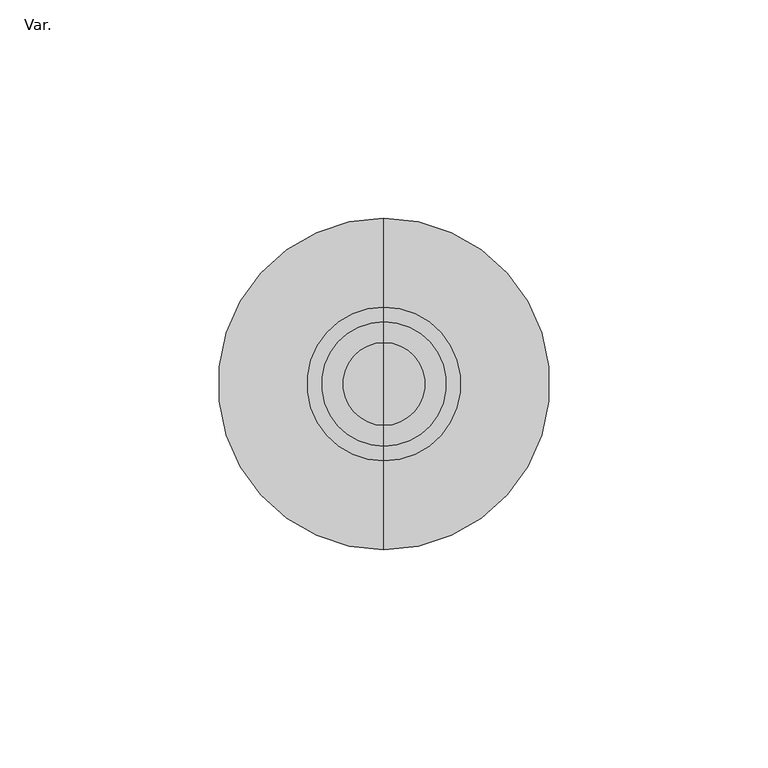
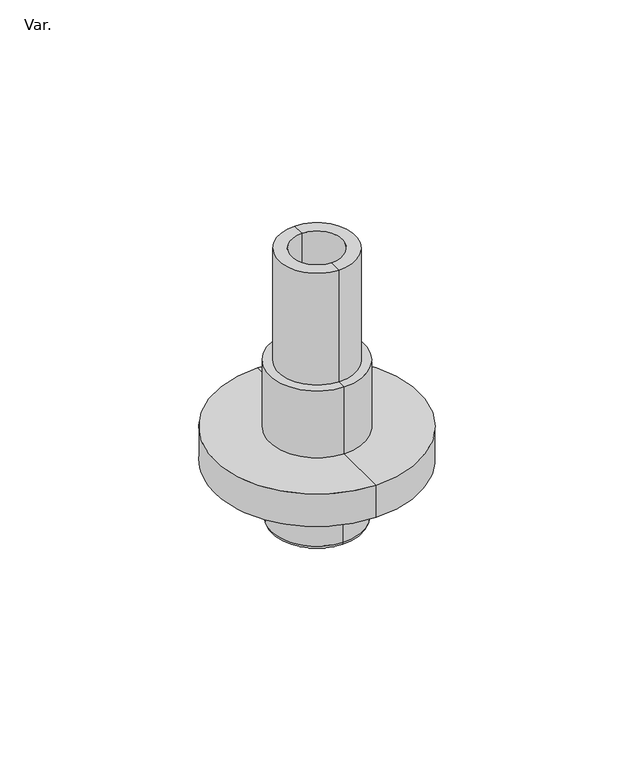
"""IFC4 building model written with IfcOpenShell, lengths in millimetres: pipe fitting geometry, PlastigamaWavin_Unionesdetubería_LineaDoradaZNoUsarAdaptadorTanque(Nested) : Var.."""

from ifc_helpers import new_model, si_unit, point, frame, origin, place, context, project, spatial, polyline, circle_curve, ellipse_curve, trimmed, source, transform, mapped, element, save
from ifc_brep_helpers import plane_surface, cylinder_surface, revolved_surface, advanced_brep


def var_17c6ac72(model_context):
    return source(origin(), model_context, "Body", "AdvancedBrep", [
        advanced_brep(
        [(0.0017664, -14.25, 32.275), (0.0017664, 14.25, 32.275), (0.0011294, 14.25, 76.075), (0.0011294, -14.25, 76.075), (0.0017664, -17.6, 32.275), (0.0017664, 17.6, 32.275), (0.0021475, -17.6, 6.075), (0.0021475, 17.6, 6.075), (0.0021475, -38.0, 6.075), (0.0021475, 38.0, 6.075), (0.0023323, -38.0, -6.625), (0.0023323, 38.0, -6.625), (0.0023323, -17.0, -6.625), (0.0023323, 17.0, -6.625), (0.0026583, -17.0, -29.0416667), (0.0026583, 17.0, -29.0416667), (0.0026813, -1.5833333, -30.625), (0.0026813, 1.5833333, -30.625), (0.0026813, 15.4166667, -30.625), (0.0026813, -15.4166667, -30.625), (0.0017664, -9.5, 32.275), (0.0017664, 9.5, 32.275), (0.0017664, 0.0, 32.275), (0.0011294, -9.5, 76.075), (0.0011294, 9.5, 76.075), (0.0026583, 0.0, -29.0416667)],
        [
            (0, 1, circle_curve(frame((0.0017664, 0.0, 32.275), z_axis=(-1.454503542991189e-05, 0.0, 0.9999999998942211), x_axis=(0.0, 1.0000000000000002, 0.0)), 14.25)),
            (1, 2),
            (2, 3, circle_curve(frame((0.0011294, 0.0, 76.075), z_axis=(1.454503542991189e-05, 0.0, -0.9999999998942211), x_axis=(0.0, 1.0000000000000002, 0.0)), 14.25)),
            (3, 0),
            (1, 0, circle_curve(frame((0.0017664, 0.0, 32.275), z_axis=(-1.454503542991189e-05, 0.0, 0.9999999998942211), x_axis=(0.0, 1.0000000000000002, 0.0)), 14.25)),
            (3, 2, circle_curve(frame((0.0011294, 0.0, 76.075), z_axis=(1.454503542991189e-05, 0.0, -0.9999999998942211), x_axis=(0.0, 1.0000000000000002, 0.0)), 14.25)),
            (4, 5, circle_curve(frame((0.0017664, 0.0, 32.275), z_axis=(-1.454503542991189e-05, 0.0, 0.9999999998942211), x_axis=(0.0, 1.0000000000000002, 0.0)), 17.6)),
            (5, 1),
            (0, 4),
            (5, 4, circle_curve(frame((0.0017664, 0.0, 32.275), z_axis=(-1.454503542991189e-05, 0.0, 0.9999999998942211), x_axis=(0.0, 1.0000000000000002, 0.0)), 17.6)),
            (6, 7, circle_curve(frame((0.0021475, 0.0, 6.075), z_axis=(-1.454503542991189e-05, 0.0, 0.9999999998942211), x_axis=(0.0, 1.0000000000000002, 0.0)), 17.6)),
            (7, 5),
            (4, 6),
            (7, 6, circle_curve(frame((0.0021475, 0.0, 6.075), z_axis=(-1.454503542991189e-05, 0.0, 0.9999999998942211), x_axis=(0.0, 1.0000000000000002, 0.0)), 17.6)),
            (8, 9, circle_curve(frame((0.0021475, 0.0, 6.075), z_axis=(-1.454503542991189e-05, 0.0, 0.9999999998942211), x_axis=(0.0, 1.0000000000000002, 0.0)), 38.0)),
            (9, 7),
            (6, 8),
            (9, 8, circle_curve(frame((0.0021475, 0.0, 6.075), z_axis=(-1.454503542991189e-05, 0.0, 0.9999999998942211), x_axis=(0.0, 1.0000000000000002, 0.0)), 38.0)),
            (10, 11, circle_curve(frame((0.0023323, 0.0, -6.625), z_axis=(-1.454503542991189e-05, 0.0, 0.9999999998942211), x_axis=(0.0, 1.0000000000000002, 0.0)), 38.0)),
            (11, 9),
            (8, 10),
            (11, 10, circle_curve(frame((0.0023323, 0.0, -6.625), z_axis=(-1.454503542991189e-05, 0.0, 0.9999999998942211), x_axis=(0.0, 1.0000000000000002, 0.0)), 38.0)),
            (12, 13, circle_curve(frame((0.0023323, 0.0, -6.625), z_axis=(-1.454503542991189e-05, 0.0, 0.9999999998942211), x_axis=(0.0, 1.0000000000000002, 0.0)), 17.0)),
            (13, 11),
            (10, 12),
            (13, 12, circle_curve(frame((0.0023323, 0.0, -6.625), z_axis=(-1.454503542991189e-05, 0.0, 0.9999999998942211), x_axis=(0.0, 1.0000000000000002, 0.0)), 17.0)),
            (14, 15, circle_curve(frame((0.0026583, 0.0, -29.0416667), z_axis=(-1.454503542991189e-05, 0.0, 0.9999999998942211), x_axis=(0.0, 1.0000000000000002, 0.0)), 17.0)),
            (15, 13),
            (12, 14),
            (15, 14, circle_curve(frame((0.0026583, 0.0, -29.0416667), z_axis=(-1.454503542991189e-05, 0.0, 0.9999999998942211), x_axis=(0.0, 1.0000000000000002, 0.0)), 17.0)),
            (16, 17, circle_curve(frame((0.0026813, 0.0, -30.625), z_axis=(-1.454503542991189e-05, 0.0, 0.9999999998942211), x_axis=(0.0, 1.0000000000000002, 0.0)), 1.5833333)),
            (17, 18),
            (18, 19, circle_curve(frame((0.0026813, 0.0, -30.625), z_axis=(1.454503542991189e-05, 0.0, -0.9999999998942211), x_axis=(0.0, 1.0000000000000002, 0.0)), 15.4166667)),
            (19, 16),
            (17, 16, circle_curve(frame((0.0026813, 0.0, -30.625), z_axis=(-1.454503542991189e-05, 0.0, 0.9999999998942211), x_axis=(0.0, 1.0000000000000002, 0.0)), 1.5833333)),
            (19, 18, circle_curve(frame((0.0026813, 0.0, -30.625), z_axis=(1.454503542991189e-05, 0.0, -0.9999999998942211), x_axis=(0.0, 1.0000000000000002, 0.0)), 15.4166667)),
            (20, 21, circle_curve(frame((0.0017664, 0.0, 32.275), z_axis=(-1.454503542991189e-05, 0.0, 0.9999999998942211), x_axis=(0.0, 1.0000000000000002, 0.0)), 9.5)),
            (21, 22),
            (22, 20),
            (21, 20, circle_curve(frame((0.0017664, 0.0, 32.275), z_axis=(-1.454503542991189e-05, 0.0, 0.9999999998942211), x_axis=(0.0, 1.0000000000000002, 0.0)), 9.5)),
            (23, 24, circle_curve(frame((0.0011294, 0.0, 76.075), z_axis=(-1.454503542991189e-05, 0.0, 0.9999999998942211), x_axis=(0.0, 1.0000000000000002, 0.0)), 9.5)),
            (24, 21),
            (20, 23),
            (24, 23, circle_curve(frame((0.0011294, 0.0, 76.075), z_axis=(-1.454503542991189e-05, 0.0, 0.9999999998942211), x_axis=(0.0, 1.0000000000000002, 0.0)), 9.5)),
            (2, 24),
            (23, 3),
            (18, 15, circle_curve(frame((0.0026583, 15.4166667, -29.0416667), z_axis=(0.9999999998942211, 0.0, 1.4545035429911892e-05), x_axis=(-1.4545035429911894e-05, 0.0, 0.9999999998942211)), 1.5833333)),
            (14, 19, circle_curve(frame((0.0026583, -15.4166667, -29.0416667), z_axis=(0.9999999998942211, 0.0, 1.4545035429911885e-05), x_axis=(-1.4545035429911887e-05, 0.0, 0.9999999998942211)), 1.5833333)),
            (25, 17, circle_curve(frame((0.0026583, 1.5833333, -29.0416667), z_axis=(0.9999999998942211, 0.0, 1.4545035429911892e-05), x_axis=(-1.4545035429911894e-05, 0.0, 0.9999999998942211)), 1.5833333)),
            (16, 25, circle_curve(frame((0.0026583, -1.5833333, -29.0416667), z_axis=(0.9999999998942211, 0.0, 1.4545035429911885e-05), x_axis=(-1.4545035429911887e-05, 0.0, 0.9999999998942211)), 1.5833333)),
        ],
        [
            cylinder_surface(frame((-0.0269425, 0.0, 2006.0749998), z_axis=(1.454503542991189e-05, 0.0, -0.9999999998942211), x_axis=(0.0, 1.0000000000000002, 0.0)), 14.25),
            plane_surface(frame((0.0017664, 0.0, 32.275), z_axis=(-1.4545035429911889e-05, 0.0, 0.9999999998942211), x_axis=(0.0, 1.0, 0.0))),
            cylinder_surface(frame((-0.0269425, 0.0, 2006.0749998), z_axis=(1.454503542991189e-05, 0.0, -0.9999999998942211), x_axis=(0.0, 1.0000000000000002, 0.0)), 17.6),
            plane_surface(frame((0.0021475, 0.0, 6.075), z_axis=(-1.4545035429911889e-05, 0.0, 0.9999999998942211), x_axis=(0.0, 1.0, 0.0))),
            cylinder_surface(frame((-0.0269425, 0.0, 2006.0749998), z_axis=(1.454503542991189e-05, 0.0, -0.9999999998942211), x_axis=(0.0, 1.0000000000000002, 0.0)), 38.0),
            plane_surface(frame((0.0023323, 0.0, -6.625), z_axis=(1.4545035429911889e-05, 0.0, -0.9999999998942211), x_axis=(0.0, 1.0, 0.0))),
            cylinder_surface(frame((-0.0269425, 0.0, 2006.0749998), z_axis=(1.454503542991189e-05, 0.0, -0.9999999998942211), x_axis=(0.0, 1.0000000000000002, 0.0)), 17.0),
            plane_surface(frame((0.0026813, 0.0, -30.625), z_axis=(1.4545035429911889e-05, 0.0, -0.9999999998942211), x_axis=(0.0, 1.0, 0.0))),
            revolved_surface(polyline([(0.0017664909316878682, 9.500000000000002, 32.27500000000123), (0.0011294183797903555, 9.500000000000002, 76.07500000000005)]), (-0.0269425, 0.0, 2006.0749998), (1.454503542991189e-05, 0.0, -0.9999999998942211)),
            plane_surface(frame((0.0011294, 0.0, 76.075), z_axis=(-1.4545035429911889e-05, 0.0, 0.9999999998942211), x_axis=(0.0, 1.0, 0.0))),
            revolved_surface(trimmed(ellipse_curve(frame((0.0026583, 15.4166667, -29.0416667), z_axis=(-0.9999999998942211, 0.0, -1.4545035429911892e-05), x_axis=(-1.4545035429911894e-05, 0.0, 0.9999999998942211)), 1.5833333, 1.5833333), [point((0.0026583, 17.0, -29.0416667))], [point((0.0026813, 15.4166667, -30.625))], True, "CARTESIAN"), (-0.0269425, 0.0, 2006.0749998), (1.454503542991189e-05, 0.0, -0.9999999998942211)),
            revolved_surface(trimmed(ellipse_curve(frame((0.0026583, 15.4166667, -29.0416667), z_axis=(-0.9999999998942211, 0.0, -1.4545035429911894e-05), x_axis=(-1.4545035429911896e-05, 0.0, 0.9999999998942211)), 1.5833333, 1.5833333), [point((0.0026583, 17.0, -29.0416667))], [point((0.0026813, 15.4166667, -30.625))], True, "CARTESIAN"), (-0.0269425, 0.0, 2006.0749998), (1.454503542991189e-05, 0.0, -0.9999999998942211)),
            revolved_surface(trimmed(ellipse_curve(frame((0.0026583, 1.5833333, -29.0416667), z_axis=(-0.9999999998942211, 0.0, -1.4545035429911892e-05), x_axis=(-1.4545035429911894e-05, 0.0, 0.9999999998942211)), 1.5833333, 1.5833333), [point((0.0026813, 1.5833333, -30.625))], [point((0.0026583, 0.0, -29.0416667))], True, "CARTESIAN"), (-0.0269425, 0.0, 2006.0749998), (1.454503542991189e-05, 0.0, -0.9999999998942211)),
            revolved_surface(trimmed(ellipse_curve(frame((0.0026583, 1.5833333, -29.0416667), z_axis=(-0.9999999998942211, 0.0, -1.4545035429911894e-05), x_axis=(-1.4545035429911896e-05, 0.0, 0.9999999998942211)), 1.5833333, 1.5833333), [point((0.0026813, 1.5833333, -30.625))], [point((0.0026583, 0.0, -29.0416667))], True, "CARTESIAN"), (-0.0269425, 0.0, 2006.0749998), (1.454503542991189e-05, 0.0, -0.9999999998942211)),
        ],
        [
            (0, [[1, 2, 3, 4]]),
            (0, [[5, -4, 6, -2]]),
            (1, [[7, 8, -1, 9]]),
            (1, [[10, -9, -5, -8]]),
            (2, [[11, 12, -7, 13]]),
            (2, [[14, -13, -10, -12]]),
            (3, [[15, 16, -11, 17]]),
            (3, [[18, -17, -14, -16]]),
            (4, [[19, 20, -15, 21]]),
            (4, [[22, -21, -18, -20]]),
            (5, [[23, 24, -19, 25]]),
            (5, [[26, -25, -22, -24]]),
            (6, [[27, 28, -23, 29]]),
            (6, [[30, -29, -26, -28]]),
            (7, [[31, 32, 33, 34]]),
            (7, [[35, -34, 36, -32]]),
            (1, [[37, 38, 39]]),
            (1, [[40, -39, -38]]),
            (8, [[41, 42, -37, 43]]),
            (8, [[44, -43, -40, -42]]),
            (9, [[-3, 45, -41, 46]]),
            (9, [[-6, -46, -44, -45]]),
            (10, [[-33, 47, -27, 48]]),
            (11, [[-36, -48, -30, -47]]),
            (12, [[49, -31, 50]]),
            (13, [[-50, -35, -49]]),
        ],
    ),
    ])


if __name__ == "__main__":
    model = new_model("IFC4")
    model_context = context("Model", 3, world=origin())
    ifc_project = project(units=[si_unit("LENGTHUNIT", "METRE", prefix="MILLI")], contexts=[model_context])
    site = spatial("IfcSite", under=ifc_project)
    building = spatial("IfcBuilding", under=site)
    placement = place(None, origin())
    var_shape = var_17c6ac72(model_context)
    element("IfcPipeFitting", 1, ObjectType="PlastigamaWavin_Unionesdetubería_LineaDoradaZNoUsarAdaptadorTanque(Nested) : Var.", at=placement, inside=building, context=model_context, shape_type="MappedRepresentation", body=[
        mapped(var_shape, transform((0.0, 0.0, 0.0), x_axis=(1.0, 0.0, 0.0), y_axis=(0.0, 1.0, 0.0), z_axis=(0.0, 0.0, 1.0))),
    ])
    save(model, "model.ifc")
